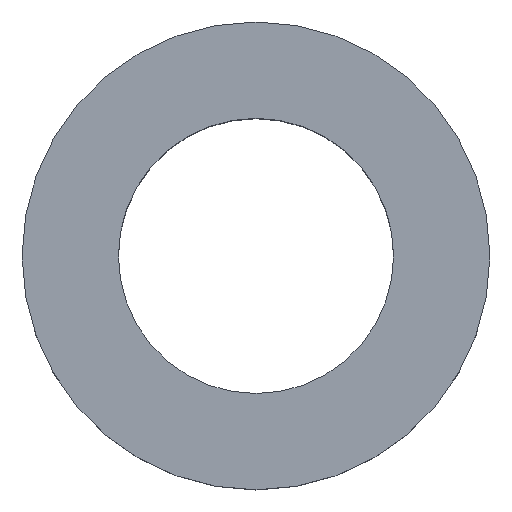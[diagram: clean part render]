
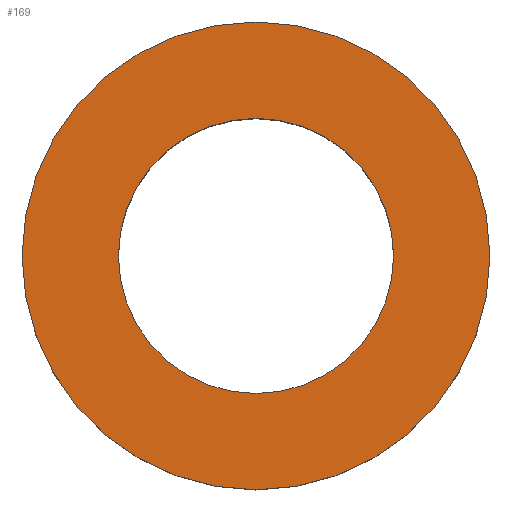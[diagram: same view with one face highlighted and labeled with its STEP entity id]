
A CAD part, top view. The second image highlights one B-rep face of the part: STEP entity #169.
In plain terms, the highlighted planar face has unit normal (0, 0, 1).
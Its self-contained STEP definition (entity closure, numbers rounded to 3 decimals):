
#169=ADVANCED_FACE('',(#193,#194),#190,.T.);
#190=PLANE('',#402);
#193=FACE_BOUND('',#199,.T.);
#194=FACE_BOUND('',#200,.T.);
#199=EDGE_LOOP('',(#223,#224));
#200=EDGE_LOOP('',(#225,#226));
#223=ORIENTED_EDGE('',*,*,#331,.T.);
#224=ORIENTED_EDGE('',*,*,#332,.T.);
#225=ORIENTED_EDGE('',*,*,#333,.F.);
#226=ORIENTED_EDGE('',*,*,#334,.F.);
#307=VERTEX_POINT('',#555);
#308=VERTEX_POINT('',#556);
#309=VERTEX_POINT('',#559);
#310=VERTEX_POINT('',#560);
#331=EDGE_CURVE('',#307,#308,#373,.T.);
#332=EDGE_CURVE('',#308,#307,#374,.T.);
#333=EDGE_CURVE('',#309,#310,#375,.T.);
#334=EDGE_CURVE('',#310,#309,#376,.T.);
#373=CIRCLE('',#398,8.5);
#374=CIRCLE('',#399,8.5);
#375=CIRCLE('',#400,5.);
#376=CIRCLE('',#401,5.);
#398=AXIS2_PLACEMENT_3D('',#554,#445,#446);
#399=AXIS2_PLACEMENT_3D('',#557,#447,#448);
#400=AXIS2_PLACEMENT_3D('',#558,#449,#450);
#401=AXIS2_PLACEMENT_3D('',#561,#451,#452);
#402=AXIS2_PLACEMENT_3D('',#562,#453,#454);
#445=DIRECTION('',(0.,0.,1.));
#446=DIRECTION('',(0.,1.,0.));
#447=DIRECTION('',(0.,0.,1.));
#448=DIRECTION('',(0.,-1.,0.));
#449=DIRECTION('',(0.,0.,1.));
#450=DIRECTION('',(0.,-1.,0.));
#451=DIRECTION('',(0.,0.,1.));
#452=DIRECTION('',(0.,1.,0.));
#453=DIRECTION('',(0.,0.,1.));
#454=DIRECTION('',(0.,1.,0.));
#554=CARTESIAN_POINT('',(0.,0.,3.));
#555=CARTESIAN_POINT('',(-8.5,0.,3.));
#556=CARTESIAN_POINT('',(8.5,0.,3.));
#557=CARTESIAN_POINT('',(0.,0.,3.));
#558=CARTESIAN_POINT('',(0.,0.,3.));
#559=CARTESIAN_POINT('',(5.,0.,3.));
#560=CARTESIAN_POINT('',(-5.,0.,3.));
#561=CARTESIAN_POINT('',(0.,0.,3.));
#562=CARTESIAN_POINT('',(0.,0.,3.));
